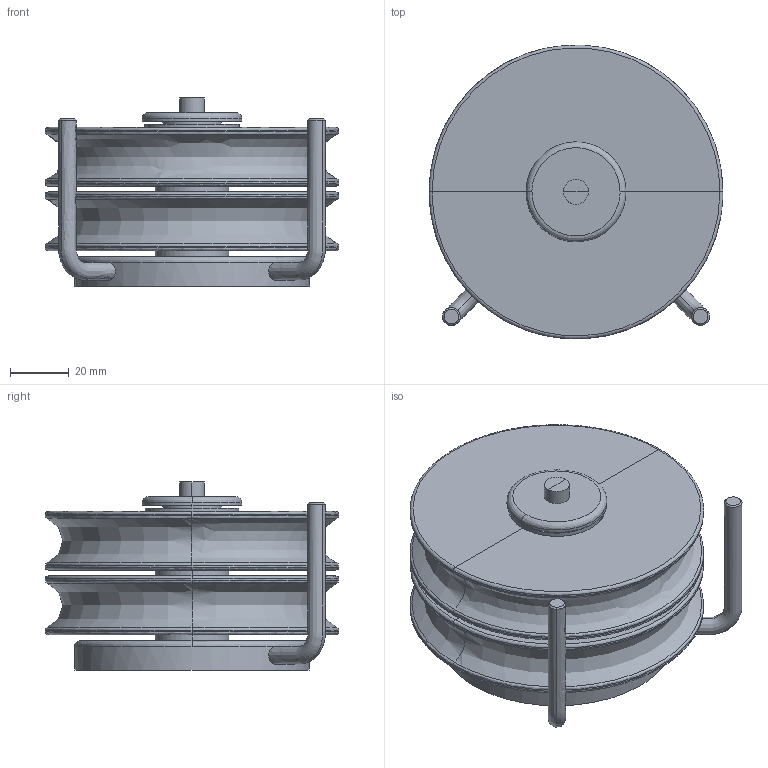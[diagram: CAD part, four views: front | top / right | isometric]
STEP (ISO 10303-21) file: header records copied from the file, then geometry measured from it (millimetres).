
FILE_DESCRIPTION(/* description */ (''),/* implementation_level */ '2;1');
FILE_NAME(/* name */ 'POULIE DOUBLE PLAT PONT D 100',/* time_stamp */ '2005-05-31T08:54:44+02:00',/* author */ (''),/* organization */ (''),/* preprocessor_version */ 'ST-DEVELOPER v8',/* originating_system */ '',/* authorisation */ '');
FILE_SCHEMA (('CONFIG_CONTROL_DESIGN'));
Length unit declared in the file: millimetre
Products named in the file (1): 1
Bounding box: 100 x 99.86 x 64 mm (x, y, z)
Volume: 279371.7 mm3; surface area: 81122.7 mm2
Topology: 13 solids, 14 shells, 233 faces, 495 edges, 271 vertices
Faces by surface type: bspline 233
Entity records: 9704 total; most frequent: CARTESIAN_POINT 6845, ORIENTED_EDGE 970, EDGE_CURVE 486, VERTEX_POINT 269, EDGE_LOOP 251, B_SPLINE_CURVE_WITH_KNOTS 242, ADVANCED_FACE 233, FACE_OUTER_BOUND 233
